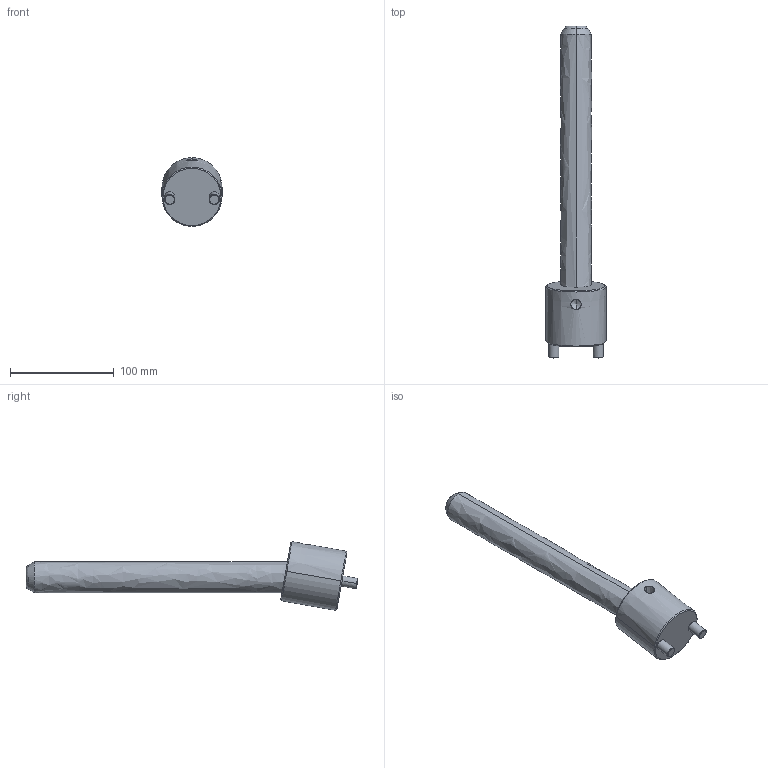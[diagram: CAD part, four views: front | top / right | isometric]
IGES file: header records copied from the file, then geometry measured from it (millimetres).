
Start section: START RECORD GO HERE.
Global section: file name: CI1030250.igs; native system: DASSAULT SYSTEMES CATIA V5 R20 - www.3ds.com; preprocessor: CATIA Version 5 Release 20 ; author: r.borello; organization: CFTORINO; date: 20190621.160104; units: millimetre
Bounding box: 58 x 320.76 x 66.32 mm (x, y, z)
Surface area: 49690 mm2 (no closed solid volume)
Topology: 0 solids, 0 shells, 39 faces, 162 edges, 160 vertices
Faces by surface type: revolution 32, plane 7
